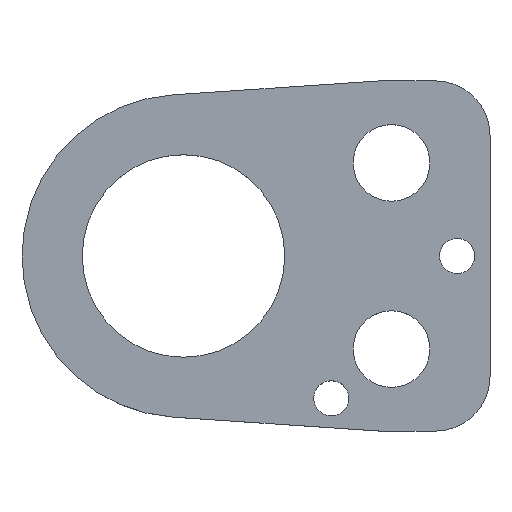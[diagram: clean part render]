
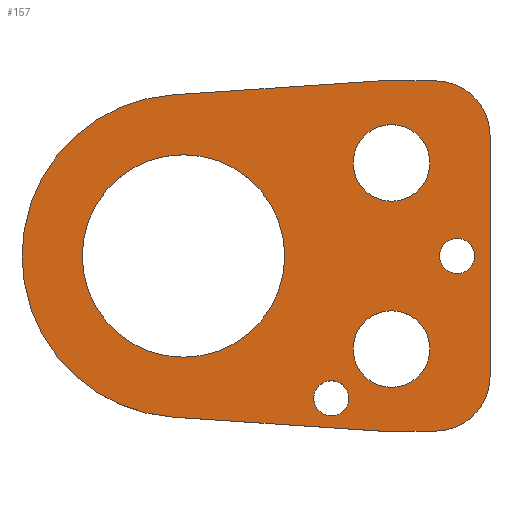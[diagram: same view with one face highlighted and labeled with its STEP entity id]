
A CAD part, top view. The second image highlights one B-rep face of the part: STEP entity #157.
In plain terms, the highlighted planar face has unit normal (0, 0, 1).
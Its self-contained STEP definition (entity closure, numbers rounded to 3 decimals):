
#103=FACE_BOUND('',#207,.T.);
#104=FACE_BOUND('',#208,.T.);
#105=FACE_BOUND('',#209,.T.);
#106=FACE_BOUND('',#210,.T.);
#107=FACE_BOUND('',#211,.T.);
#108=FACE_BOUND('',#212,.T.);
#122=CIRCLE('',#480,10.);
#124=CIRCLE('',#484,10.);
#127=CIRCLE('',#490,29.5);
#138=CIRCLE('',#503,3.2);
#139=CIRCLE('',#504,3.2);
#140=CIRCLE('',#505,7.);
#141=CIRCLE('',#506,7.);
#142=CIRCLE('',#507,7.);
#143=CIRCLE('',#508,7.);
#144=CIRCLE('',#509,3.2);
#145=CIRCLE('',#510,3.2);
#146=CIRCLE('',#511,18.5);
#147=CIRCLE('',#512,18.5);
#157=ADVANCED_FACE('',(#103,#104,#105,#106,#107,#108),#174,.T.);
#174=PLANE('',#513);
#207=EDGE_LOOP('',(#273,#274,#275,#276,#277,#278,#279,#280));
#208=EDGE_LOOP('',(#281,#282));
#209=EDGE_LOOP('',(#283,#284));
#210=EDGE_LOOP('',(#285,#286));
#211=EDGE_LOOP('',(#287,#288));
#212=EDGE_LOOP('',(#289,#290));
#273=ORIENTED_EDGE('',*,*,#368,.T.);
#274=ORIENTED_EDGE('',*,*,#372,.T.);
#275=ORIENTED_EDGE('',*,*,#375,.T.);
#276=ORIENTED_EDGE('',*,*,#378,.T.);
#277=ORIENTED_EDGE('',*,*,#381,.T.);
#278=ORIENTED_EDGE('',*,*,#384,.T.);
#279=ORIENTED_EDGE('',*,*,#387,.T.);
#280=ORIENTED_EDGE('',*,*,#390,.T.);
#281=ORIENTED_EDGE('',*,*,#401,.T.);
#282=ORIENTED_EDGE('',*,*,#402,.T.);
#283=ORIENTED_EDGE('',*,*,#403,.T.);
#284=ORIENTED_EDGE('',*,*,#404,.T.);
#285=ORIENTED_EDGE('',*,*,#405,.T.);
#286=ORIENTED_EDGE('',*,*,#406,.T.);
#287=ORIENTED_EDGE('',*,*,#407,.T.);
#288=ORIENTED_EDGE('',*,*,#408,.T.);
#289=ORIENTED_EDGE('',*,*,#409,.T.);
#290=ORIENTED_EDGE('',*,*,#410,.T.);
#332=VERTEX_POINT('',#649);
#333=VERTEX_POINT('',#651);
#336=VERTEX_POINT('',#658);
#338=VERTEX_POINT('',#664);
#340=VERTEX_POINT('',#670);
#342=VERTEX_POINT('',#676);
#344=VERTEX_POINT('',#682);
#346=VERTEX_POINT('',#688);
#357=VERTEX_POINT('',#717);
#358=VERTEX_POINT('',#718);
#359=VERTEX_POINT('',#721);
#360=VERTEX_POINT('',#722);
#361=VERTEX_POINT('',#725);
#362=VERTEX_POINT('',#726);
#363=VERTEX_POINT('',#729);
#364=VERTEX_POINT('',#730);
#365=VERTEX_POINT('',#733);
#366=VERTEX_POINT('',#734);
#368=EDGE_CURVE('',#333,#332,#422,.T.);
#372=EDGE_CURVE('',#332,#336,#426,.T.);
#375=EDGE_CURVE('',#336,#338,#122,.T.);
#378=EDGE_CURVE('',#338,#340,#430,.T.);
#381=EDGE_CURVE('',#340,#342,#124,.T.);
#384=EDGE_CURVE('',#342,#344,#434,.T.);
#387=EDGE_CURVE('',#344,#346,#437,.T.);
#390=EDGE_CURVE('',#346,#333,#127,.T.);
#401=EDGE_CURVE('',#357,#358,#138,.T.);
#402=EDGE_CURVE('',#358,#357,#139,.T.);
#403=EDGE_CURVE('',#359,#360,#140,.T.);
#404=EDGE_CURVE('',#360,#359,#141,.T.);
#405=EDGE_CURVE('',#361,#362,#142,.T.);
#406=EDGE_CURVE('',#362,#361,#143,.T.);
#407=EDGE_CURVE('',#363,#364,#144,.T.);
#408=EDGE_CURVE('',#364,#363,#145,.T.);
#409=EDGE_CURVE('',#365,#366,#146,.T.);
#410=EDGE_CURVE('',#366,#365,#147,.T.);
#422=LINE('',#650,#450);
#426=LINE('',#659,#454);
#430=LINE('',#671,#458);
#434=LINE('',#683,#462);
#437=LINE('',#689,#465);
#450=VECTOR('',#527,1.);
#454=VECTOR('',#533,1.);
#458=VECTOR('',#545,1.);
#462=VECTOR('',#557,1.);
#465=VECTOR('',#562,1.);
#480=AXIS2_PLACEMENT_3D('',#665,#538,#539);
#484=AXIS2_PLACEMENT_3D('',#677,#550,#551);
#490=AXIS2_PLACEMENT_3D('',#693,#568,#569);
#503=AXIS2_PLACEMENT_3D('',#716,#594,#595);
#504=AXIS2_PLACEMENT_3D('',#719,#596,#597);
#505=AXIS2_PLACEMENT_3D('',#720,#598,#599);
#506=AXIS2_PLACEMENT_3D('',#723,#600,#601);
#507=AXIS2_PLACEMENT_3D('',#724,#602,#603);
#508=AXIS2_PLACEMENT_3D('',#727,#604,#605);
#509=AXIS2_PLACEMENT_3D('',#728,#606,#607);
#510=AXIS2_PLACEMENT_3D('',#731,#608,#609);
#511=AXIS2_PLACEMENT_3D('',#732,#610,#611);
#512=AXIS2_PLACEMENT_3D('',#735,#612,#613);
#513=AXIS2_PLACEMENT_3D('',#736,#614,#615);
#527=DIRECTION('',(0.998,-0.067,0.));
#533=DIRECTION('',(1.,0.,0.));
#538=DIRECTION('',(0.,0.,1.));
#539=DIRECTION('',(-0.707,0.707,0.));
#545=DIRECTION('',(0.,1.,0.));
#550=DIRECTION('',(0.,0.,1.));
#551=DIRECTION('',(-0.707,-0.707,0.));
#557=DIRECTION('',(-1.,0.,0.));
#562=DIRECTION('',(-0.998,-0.067,0.));
#568=DIRECTION('',(0.,0.,1.));
#569=DIRECTION('',(1.,0.,0.));
#594=DIRECTION('',(0.,0.,-1.));
#595=DIRECTION('',(-1.,0.,0.));
#596=DIRECTION('',(0.,0.,-1.));
#597=DIRECTION('',(1.,0.,0.));
#598=DIRECTION('',(0.,0.,-1.));
#599=DIRECTION('',(-1.,0.,0.));
#600=DIRECTION('',(0.,0.,-1.));
#601=DIRECTION('',(1.,0.,0.));
#602=DIRECTION('',(0.,0.,-1.));
#603=DIRECTION('',(-1.,0.,0.));
#604=DIRECTION('',(0.,0.,-1.));
#605=DIRECTION('',(1.,0.,0.));
#606=DIRECTION('',(0.,0.,-1.));
#607=DIRECTION('',(-1.,0.,0.));
#608=DIRECTION('',(0.,0.,-1.));
#609=DIRECTION('',(1.,0.,0.));
#610=DIRECTION('',(0.,0.,-1.));
#611=DIRECTION('',(-1.,0.,0.));
#612=DIRECTION('',(0.,0.,-1.));
#613=DIRECTION('',(1.,0.,0.));
#614=DIRECTION('',(0.,0.,1.));
#615=DIRECTION('',(0.998,-0.067,0.));
#649=CARTESIAN_POINT('',(36.,-32.,5.));
#650=CARTESIAN_POINT('',(36.,-32.,5.));
#651=CARTESIAN_POINT('',(-1.989,-29.433,5.));
#658=CARTESIAN_POINT('',(46.,-32.,5.));
#659=CARTESIAN_POINT('',(36.,-32.,5.));
#664=CARTESIAN_POINT('',(56.,-22.,5.));
#665=CARTESIAN_POINT('',(46.,-22.,5.));
#670=CARTESIAN_POINT('',(56.,22.,5.));
#671=CARTESIAN_POINT('',(56.,22.,5.));
#676=CARTESIAN_POINT('',(46.,32.,5.));
#677=CARTESIAN_POINT('',(46.,22.,5.));
#682=CARTESIAN_POINT('',(36.,32.,5.));
#683=CARTESIAN_POINT('',(36.,32.,5.));
#688=CARTESIAN_POINT('',(-1.989,29.433,5.));
#689=CARTESIAN_POINT('',(36.,32.,5.));
#693=CARTESIAN_POINT('',(0.,0.,5.));
#716=CARTESIAN_POINT('',(50.,0.,5.));
#717=CARTESIAN_POINT('',(50.,3.2,5.));
#718=CARTESIAN_POINT('',(50.,-3.2,5.));
#719=CARTESIAN_POINT('',(50.,0.,5.));
#720=CARTESIAN_POINT('',(38.,17.,5.));
#721=CARTESIAN_POINT('',(38.,24.,5.));
#722=CARTESIAN_POINT('',(38.,10.,5.));
#723=CARTESIAN_POINT('',(38.,17.,5.));
#724=CARTESIAN_POINT('',(38.,-17.,5.));
#725=CARTESIAN_POINT('',(38.,-10.,5.));
#726=CARTESIAN_POINT('',(38.,-24.,5.));
#727=CARTESIAN_POINT('',(38.,-17.,5.));
#728=CARTESIAN_POINT('',(27.,-26.,5.));
#729=CARTESIAN_POINT('',(27.,-22.8,5.));
#730=CARTESIAN_POINT('',(27.,-29.2,5.));
#731=CARTESIAN_POINT('',(27.,-26.,5.));
#732=CARTESIAN_POINT('',(0.,0.,5.));
#733=CARTESIAN_POINT('',(0.,18.5,5.));
#734=CARTESIAN_POINT('',(0.,-18.5,5.));
#735=CARTESIAN_POINT('',(0.,0.,5.));
#736=CARTESIAN_POINT('',(-1.989,-29.433,5.));
